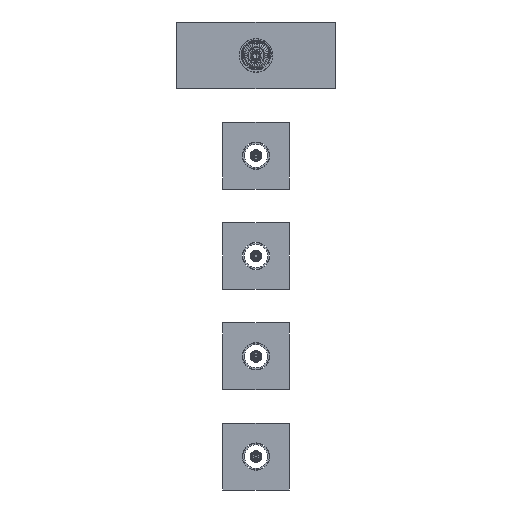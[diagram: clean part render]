
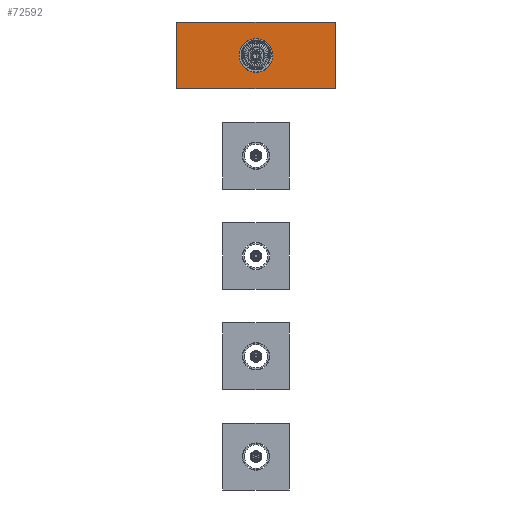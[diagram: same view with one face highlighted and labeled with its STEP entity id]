
A CAD part, front view. The second image highlights one B-rep face of the part: STEP entity #72592.
In plain terms, the highlighted planar face has unit normal (0, -1, 0).
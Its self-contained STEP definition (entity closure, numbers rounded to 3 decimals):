
#64968=DIRECTION('',(0.,0.,1.));
#64969=VECTOR('',#64968,80.);
#64970=CARTESIAN_POINT('',(-95.,84.7,-40.));
#64971=LINE('',#64970,#64969);
#64972=DIRECTION('',(1.,0.,0.));
#64973=VECTOR('',#64972,190.);
#64974=CARTESIAN_POINT('',(-95.,84.7,40.));
#64975=LINE('',#64974,#64973);
#64976=DIRECTION('',(0.,0.,-1.));
#64977=VECTOR('',#64976,80.);
#64978=CARTESIAN_POINT('',(95.,84.7,40.));
#64979=LINE('',#64978,#64977);
#64980=DIRECTION('',(-1.,0.,0.));
#64981=VECTOR('',#64980,190.);
#64982=CARTESIAN_POINT('',(95.,84.7,-40.));
#64983=LINE('',#64982,#64981);
#64984=CARTESIAN_POINT('',(0.,84.7,0.));
#64985=DIRECTION('',(0.,-1.,0.));
#64986=DIRECTION('',(1.,0.,0.));
#64987=AXIS2_PLACEMENT_3D('',#64984,#64985,#64986);
#64989=CARTESIAN_POINT('',(0.,84.7,0.));
#64990=DIRECTION('',(0.,-1.,0.));
#64991=DIRECTION('',(-1.,0.,0.));
#64992=AXIS2_PLACEMENT_3D('',#64989,#64990,#64991);
#69366=CARTESIAN_POINT('',(20.25,84.7,0.));
#69367=CARTESIAN_POINT('',(-20.25,84.7,0.));
#69368=VERTEX_POINT('',#69366);
#69369=VERTEX_POINT('',#69367);
#69370=CARTESIAN_POINT('',(-95.,84.7,-40.));
#69371=CARTESIAN_POINT('',(-95.,84.7,40.));
#69372=VERTEX_POINT('',#69370);
#69373=VERTEX_POINT('',#69371);
#69374=CARTESIAN_POINT('',(95.,84.7,40.));
#69375=VERTEX_POINT('',#69374);
#69376=CARTESIAN_POINT('',(95.,84.7,-40.));
#69377=VERTEX_POINT('',#69376);
#72572=CARTESIAN_POINT('',(0.,84.7,0.));
#72573=DIRECTION('',(0.,1.,0.));
#72574=DIRECTION('',(1.,0.,0.));
#72575=AXIS2_PLACEMENT_3D('',#72572,#72573,#72574);
#72576=PLANE('',#72575);
#72577=ORIENTED_EDGE('',*,*,#72562,.T.);
#72579=ORIENTED_EDGE('',*,*,#72578,.T.);
#72581=ORIENTED_EDGE('',*,*,#72580,.T.);
#72583=ORIENTED_EDGE('',*,*,#72582,.T.);
#72584=EDGE_LOOP('',(#72577,#72579,#72581,#72583));
#72585=FACE_OUTER_BOUND('',#72584,.F.);
#72587=ORIENTED_EDGE('',*,*,#72586,.T.);
#72589=ORIENTED_EDGE('',*,*,#72588,.T.);
#72590=EDGE_LOOP('',(#72587,#72589));
#72591=FACE_BOUND('',#72590,.F.);
#72592=ADVANCED_FACE('',(#72585,#72591),#72576,.F.);
#64988=CIRCLE('',#64987,20.25);
#64993=CIRCLE('',#64992,20.25);
#72562=EDGE_CURVE('',#69372,#69373,#64971,.T.);
#72578=EDGE_CURVE('',#69373,#69375,#64975,.T.);
#72580=EDGE_CURVE('',#69375,#69377,#64979,.T.);
#72582=EDGE_CURVE('',#69377,#69372,#64983,.T.);
#72586=EDGE_CURVE('',#69368,#69369,#64988,.T.);
#72588=EDGE_CURVE('',#69369,#69368,#64993,.T.);
